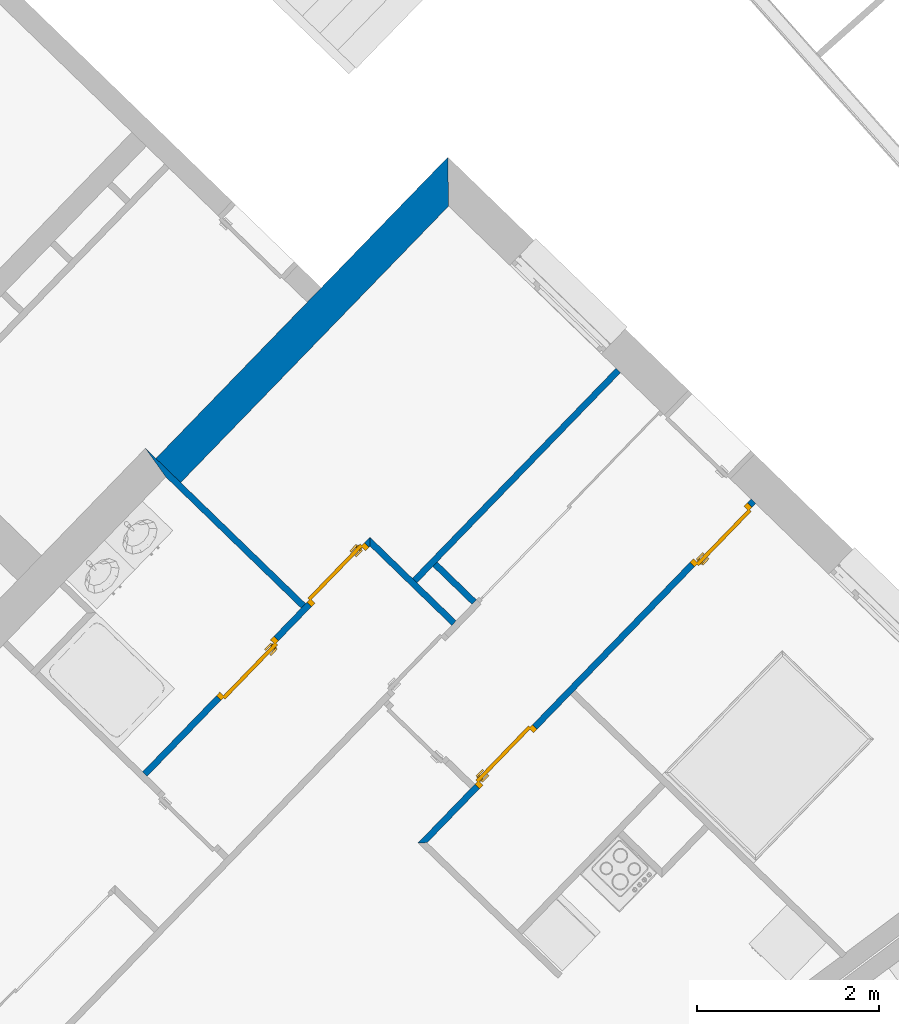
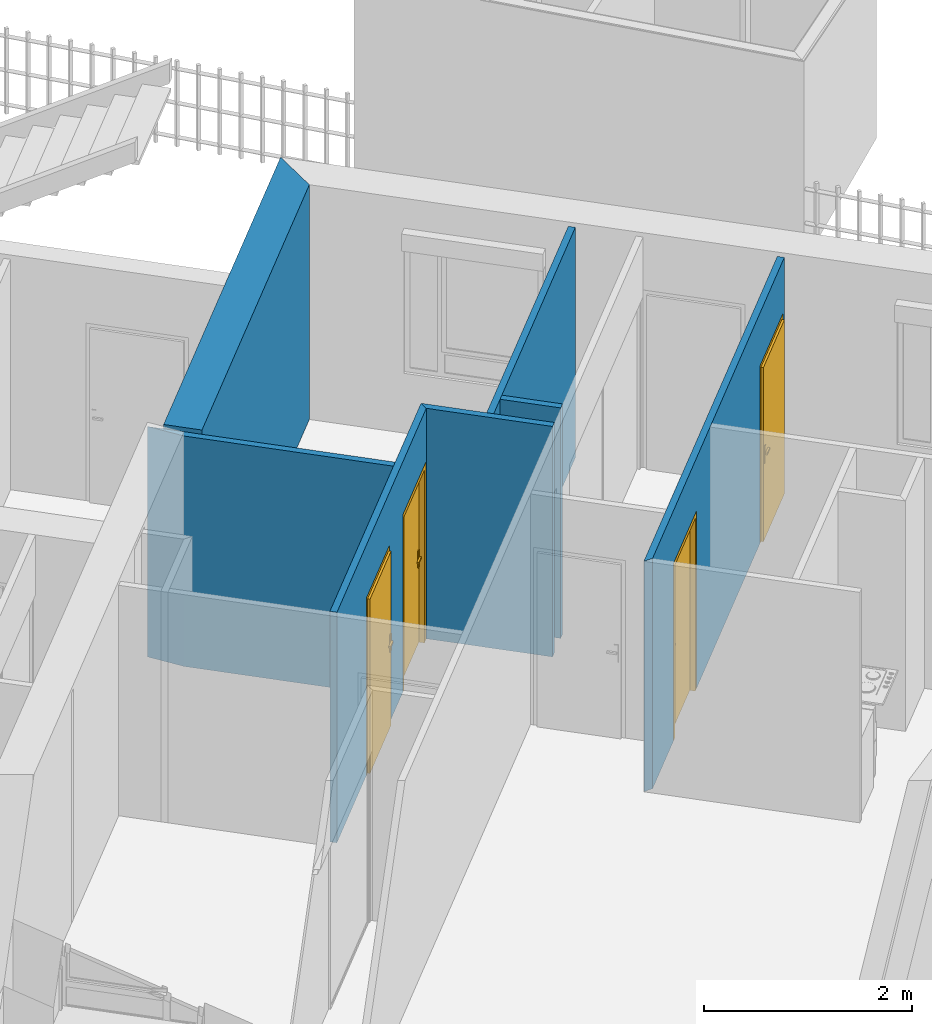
# One storey, part 22 of 195: 7 walls, 4 doors, 4 openings.
"""IFC2X3 building model written with IfcOpenShell, lengths in metres."""

from ifc_helpers import new_model, entity, si_unit, converted_unit, derived_unit, money_unit, direction, frame, origin_with_axes, origin_2d_with_axis, place, context, subcontext, project, spatial, polyline, rectangle, outline, extrude, faceted_brep, source, transform, mapped, material, layer, layer_set, layer_usage, type_object, element, fill, save


model = new_model("IFC2X3")

# Units and contexts
model_context = context("Model", 3, precision=1e-05, world=origin_with_axes(), true_north=direction((0.0, 1.0)))
body_context = subcontext(model_context, "Body", "Model", "MODEL_VIEW")
ifc_project = project(units=[si_unit("LENGTHUNIT", "METRE"), si_unit("AREAUNIT", "SQUARE_METRE"), si_unit("VOLUMEUNIT", "CUBIC_METRE"), converted_unit("PLANEANGLEUNIT", "DEGREE", entity("IfcPlaneAngleMeasure", 0.0174532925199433), si_unit("PLANEANGLEUNIT", "RADIAN"), dimensions=[0, 0, 0, 0, 0, 0, 0]), money_unit("CHF"), converted_unit("TIMEUNIT", "Year", entity("IfcTimeMeasure", 31557600.0), si_unit("TIMEUNIT", "SECOND"), dimensions=[0, 0, 1, 0, 0, 0, 0]), si_unit("MASSUNIT", "GRAM", prefix="KILO"), si_unit("THERMODYNAMICTEMPERATUREUNIT", "DEGREE_CELSIUS"), si_unit("LUMINOUSINTENSITYUNIT", "LUMEN"), si_unit("ENERGYUNIT", "JOULE", prefix="MEGA"), derived_unit("THERMALCONDUCTANCEUNIT", [(si_unit("POWERUNIT", "WATT"), 1), (si_unit("LENGTHUNIT", "METRE"), -1), (si_unit("THERMODYNAMICTEMPERATUREUNIT", "KELVIN"), -1)]), derived_unit("SPECIFICHEATCAPACITYUNIT", [(si_unit("ENERGYUNIT", "JOULE"), 1), (si_unit("MASSUNIT", "GRAM", prefix="KILO"), -1), (si_unit("THERMODYNAMICTEMPERATUREUNIT", "KELVIN"), -1)]), derived_unit("MASSDENSITYUNIT", [(si_unit("MASSUNIT", "GRAM", prefix="KILO"), 1), (si_unit("VOLUMEUNIT", "CUBIC_METRE"), -1)])], contexts=[model_context])

# Site, building, storey
site_placement = place(None, origin_with_axes())
site = spatial("IfcSite", under=ifc_project, at=site_placement, Name="Site", CompositionType="ELEMENT")
building_placement = place(site_placement, origin_with_axes())
building = spatial("IfcBuilding", under=site, at=building_placement, Name="Bâtiment", CompositionType="ELEMENT")
storey_placement = place(building_placement, origin_with_axes())
storey = spatial("IfcBuildingStorey", under=building, at=storey_placement, Name="rdc", CompositionType="ELEMENT", Elevation=0.0)

# Wall
ifc_material_1 = material(Name="Hachure solide 268963992")
ifc_layer_1 = layer(ifc_material_1, 0.07, ventilated="UNKNOWN")
ifc_layer_set_1 = layer_set([ifc_layer_1], Name="Cloison 70 0826278243")
ifc_layer_usage_1 = layer_usage(ifc_layer_set_1, "AXIS2", "POSITIVE", 0.0)
wall_type_1 = type_object("IfcWallType", Name="Cloison 70 0826278243 70", PredefinedType="NOTDEFINED")
wall_1_placement = place(storey_placement, frame((9534.102849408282, -1063.607706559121, 57.7), z_axis=(0.0, 0.0, 1.0), x_axis=(-0.6958610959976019, -0.7181763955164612, 0.0)))
element("IfcWallStandardCase", 1, at=wall_1_placement, inside=storey, type_object=wall_type_1, material=ifc_layer_usage_1, Name="Mur-149", context=body_context, shape_type="SweptSolid", body=[
    extrude(outline(polyline([(0.3799999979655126, 0.0), (3.666535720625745, 0.0), (3.666535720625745, 0.06999999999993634), (0.3799999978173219, 0.06999999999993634), (0.3799999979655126, 0.0)])), origin_with_axes(), (0.0, 0.0, 1.0), 2.7),
])

# Wall, openings, doors
ifc_layer_usage_2 = layer_usage(ifc_layer_set_1, "AXIS2", "POSITIVE", 0.0)
wall_2_placement = place(storey_placement, frame((9535.5881225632, -1065.046829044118, 57.7), z_axis=(0.0, 0.0, 1.0), x_axis=(-0.6958610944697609, -0.7181763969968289, 0.0)))
wall_2 = element("IfcWallStandardCase", 2, at=wall_2_placement, inside=storey, type_object=wall_type_1, material=ifc_layer_usage_2, Name="Mur-149", context=body_context, shape_type="SweptSolid", body=[
    extrude(outline(polyline([(0.3800000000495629, 0.0), (5.641309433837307, 0.0), (5.571309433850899, 0.06999999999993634), (0.3800000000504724, 0.06999999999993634), (0.3800000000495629, 0.0)])), origin_with_axes(), (0.0, 0.0, 1.0), 2.7),
])
opening_1_placement = place(wall_2_placement, frame((0.891687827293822, 0.0, 0.0), z_axis=(0.0, 0.0, 1.0), x_axis=(1.0, 0.0, 0.0)))
opening_1 = element("IfcOpeningElement", 3, at=opening_1_placement, cuts=wall_2, Name="Por-314", context=body_context, shape_type="SweptSolid", body=[
    extrude(rectangle(XDim=0.9099999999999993, YDim=2.079999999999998, at=origin_2d_with_axis()), frame((0.0, -0.07000000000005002, 1.039999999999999), z_axis=(0.0, -1.0, 0.0), x_axis=(-1.0, 0.0, 0.0)), (0.0, 0.0, -1.0), 0.14),
])
opening_2_placement = place(wall_2_placement, frame((4.288332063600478, 0.0, 0.0), z_axis=(0.0, 0.0, 1.0), x_axis=(1.0, 0.0, 0.0)))
opening_2 = element("IfcOpeningElement", 4, at=opening_2_placement, cuts=wall_2, Name="Por-316", context=body_context, shape_type="SweptSolid", body=[
    extrude(rectangle(XDim=0.9099999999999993, YDim=2.079999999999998, at=origin_2d_with_axis()), frame((0.0, 0.06999999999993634, 1.039999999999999), z_axis=(0.0, -1.0, 0.0), x_axis=(-1.0, 0.0, 0.0)), (0.0, 0.0, 1.0), 0.14),
])
door_style = type_object("IfcDoorStyle", Name="Porte_1v", ConstructionType="NOTDEFINED", OperationType="NOTDEFINED", ParameterTakesPrecedence=False, Sizeable=False)
shared_shape_1 = source(origin_with_axes(), body_context, "Body", "Brep", [
    faceted_brep([(0.455, 0.0, 0.0), (0.415, 0.0, 0.0), (0.415, 0.0, 2.04), (-0.415, 0.0, 2.04), (-0.415, 0.0, 0.0), (-0.455, 0.0, 0.0), (-0.455, 0.0, 2.08), (0.455, 0.0, 2.08), (0.455, -0.07, 0.0), (0.4, -0.07, 0.0), (0.4, -0.015, 0.0), (0.415, -0.015, 0.0), (0.415, -0.015, 2.04), (-0.415, -0.015, 2.04), (-0.415, -0.015, 0.0), (-0.4, -0.015, 0.0), (-0.4, -0.07, 0.0), (-0.455, -0.07, 0.0), (-0.455, -0.07, 2.08), (0.455, -0.07, 2.08), (-0.4, -0.07, 2.025), (0.4, -0.07, 2.025), (0.4, -0.015, 2.025), (-0.4, -0.015, 2.025)], [[[0, 1, 2, 3, 4, 5, 6, 7]], [[0, 8, 9, 10, 11, 1]], [[1, 11, 12, 2]], [[2, 12, 13, 3]], [[3, 13, 14, 4]], [[5, 4, 14, 15, 16, 17]], [[18, 6, 5, 17]], [[19, 7, 6, 18]], [[8, 0, 7, 19]], [[9, 8, 19, 18, 17, 16, 20, 21]], [[10, 9, 21, 22]], [[11, 10, 22, 23, 15, 14, 13, 12]], [[23, 20, 16, 15]], [[22, 21, 20, 23]]]),
    faceted_brep([(-0.35, -0.015, 0.9), (-0.39, -0.015, 0.9), (-0.39, -0.015, 1.1), (-0.35, -0.015, 1.1), (-0.35, -0.025, 0.9), (-0.39, -0.025, 0.9), (-0.39, -0.025, 1.1), (-0.35, -0.025, 1.1)], [[[0, 1, 2, 3]], [[1, 0, 4, 5]], [[2, 1, 5, 6]], [[3, 2, 6, 7]], [[0, 3, 7, 4]], [[5, 4, 7, 6]]]),
    faceted_brep([(-0.28, -0.025, 1.0), (-0.38, -0.025, 1.0), (-0.38, -0.025, 1.02), (-0.28, -0.025, 1.02), (-0.28, -0.045, 1.0), (-0.38, -0.045, 1.0), (-0.38, -0.045, 1.02), (-0.28, -0.045, 1.02)], [[[0, 1, 2, 3]], [[1, 0, 4, 5]], [[2, 1, 5, 6]], [[3, 2, 6, 7]], [[0, 3, 7, 4]], [[5, 4, 7, 6]]]),
    faceted_brep([(-0.35, 0.035, 0.9), (-0.39, 0.035, 0.9), (-0.39, 0.035, 1.1), (-0.35, 0.035, 1.1), (-0.35, 0.025, 0.9), (-0.39, 0.025, 0.9), (-0.39, 0.025, 1.1), (-0.35, 0.025, 1.1)], [[[0, 1, 2, 3]], [[1, 0, 4, 5]], [[2, 1, 5, 6]], [[3, 2, 6, 7]], [[0, 3, 7, 4]], [[5, 4, 7, 6]]]),
    faceted_brep([(-0.28, 0.05500000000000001, 1.0), (-0.38, 0.05500000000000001, 1.0), (-0.38, 0.05500000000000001, 1.02), (-0.28, 0.05500000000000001, 1.02), (-0.28, 0.035, 1.0), (-0.38, 0.035, 1.0), (-0.38, 0.035, 1.02), (-0.28, 0.035, 1.02)], [[[0, 1, 2, 3]], [[1, 0, 4, 5]], [[2, 1, 5, 6]], [[3, 2, 6, 7]], [[0, 3, 7, 4]], [[5, 4, 7, 6]]]),
    faceted_brep([(-0.415, 0.025, 0.0), (0.415, 0.025, 0.0), (0.415, -0.015, 0.0), (-0.415, -0.015, 0.0), (-0.415, 0.025, 2.04), (0.415, 0.025, 2.04), (0.415, -0.015, 2.04), (-0.415, -0.015, 2.04)], [[[0, 1, 2, 3]], [[0, 4, 5, 1]], [[1, 5, 6, 2]], [[3, 2, 6, 7]], [[4, 0, 3, 7]], [[5, 4, 7, 6]]]),
])
door_1_placement = place(opening_2_placement, frame((0.4149999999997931, 0.0, 0.0), z_axis=(0.0, 0.0, 1.0), x_axis=(-1.0, 0.0, 0.0)))
door_1 = element("IfcDoor", 5, at=door_1_placement, inside=storey, type_object=door_style, Name="Por-316", OverallHeight=2.04, OverallWidth=0.83, context=body_context, shape_type="MappedRepresentation", body=[
    mapped(shared_shape_1, transform((0.4150000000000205, 0.0, 0.0))),
])
fill(opening_2, door_1)
shared_shape_2 = source(origin_with_axes(), body_context, "Body", "Brep", [
    faceted_brep([(-0.455, 0.0, 0.0), (-0.455, 0.0, 2.08), (0.455, 0.0, 2.08), (0.455, 0.0, 0.0), (0.415, 0.0, 0.0), (0.415, 0.0, 2.04), (-0.415, 0.0, 2.04), (-0.415, 0.0, 0.0), (-0.455, -0.07, 0.0), (-0.455, -0.07, 2.08), (0.455, -0.07, 2.08), (0.455, -0.07, 0.0), (0.4, -0.07, 0.0), (0.4, -0.015, 0.0), (0.415, -0.015, 0.0), (0.415, -0.015, 2.04), (-0.415, -0.015, 2.04), (-0.415, -0.015, 0.0), (-0.4, -0.015, 0.0), (-0.4, -0.07, 0.0), (-0.4, -0.07, 2.025), (0.4, -0.07, 2.025), (0.4, -0.015, 2.025), (-0.4, -0.015, 2.025)], [[[0, 1, 2, 3, 4, 5, 6, 7]], [[8, 9, 1, 0]], [[9, 10, 2, 1]], [[10, 11, 3, 2]], [[3, 11, 12, 13, 14, 4]], [[5, 4, 14, 15]], [[6, 5, 15, 16]], [[7, 6, 16, 17]], [[0, 7, 17, 18, 19, 8]], [[19, 20, 21, 12, 11, 10, 9, 8]], [[22, 13, 12, 21]], [[17, 16, 15, 14, 13, 22, 23, 18]], [[18, 23, 20, 19]], [[23, 22, 21, 20]]]),
    faceted_brep([(0.35, -0.015, 0.9), (0.35, -0.015, 1.1), (0.39, -0.015, 1.1), (0.39, -0.015, 0.9), (0.35, -0.025, 0.9), (0.35, -0.025, 1.1), (0.39, -0.025, 1.1), (0.39, -0.025, 0.9)], [[[0, 1, 2, 3]], [[0, 4, 5, 1]], [[1, 5, 6, 2]], [[2, 6, 7, 3]], [[3, 7, 4, 0]], [[7, 6, 5, 4]]]),
    faceted_brep([(0.28, -0.025, 1.0), (0.28, -0.025, 1.02), (0.38, -0.025, 1.02), (0.38, -0.025, 1.0), (0.28, -0.045, 1.0), (0.28, -0.045, 1.02), (0.38, -0.045, 1.02), (0.38, -0.045, 1.0)], [[[0, 1, 2, 3]], [[0, 4, 5, 1]], [[1, 5, 6, 2]], [[2, 6, 7, 3]], [[3, 7, 4, 0]], [[7, 6, 5, 4]]]),
    faceted_brep([(0.35, 0.035, 0.9), (0.35, 0.035, 1.1), (0.39, 0.035, 1.1), (0.39, 0.035, 0.9), (0.35, 0.025, 0.9), (0.35, 0.025, 1.1), (0.39, 0.025, 1.1), (0.39, 0.025, 0.9)], [[[0, 1, 2, 3]], [[0, 4, 5, 1]], [[1, 5, 6, 2]], [[2, 6, 7, 3]], [[3, 7, 4, 0]], [[7, 6, 5, 4]]]),
    faceted_brep([(0.28, 0.05500000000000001, 1.0), (0.28, 0.05500000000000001, 1.02), (0.38, 0.05500000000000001, 1.02), (0.38, 0.05500000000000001, 1.0), (0.28, 0.035, 1.0), (0.28, 0.035, 1.02), (0.38, 0.035, 1.02), (0.38, 0.035, 1.0)], [[[0, 1, 2, 3]], [[0, 4, 5, 1]], [[1, 5, 6, 2]], [[2, 6, 7, 3]], [[3, 7, 4, 0]], [[7, 6, 5, 4]]]),
    faceted_brep([(0.415, 0.025, 0.0), (0.415, -0.015, 0.0), (-0.415, -0.015, 0.0), (-0.415, 0.025, 0.0), (0.415, 0.025, 2.04), (0.415, -0.015, 2.04), (-0.415, -0.015, 2.04), (-0.415, 0.025, 2.04)], [[[0, 1, 2, 3]], [[4, 5, 1, 0]], [[1, 5, 6, 2]], [[3, 2, 6, 7]], [[0, 3, 7, 4]], [[7, 6, 5, 4]]]),
])
door_2_placement = place(opening_1_placement, frame((-0.4150000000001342, 0.0, 0.0), z_axis=(0.0, 0.0, 1.0), x_axis=(1.0, 0.0, 0.0)))
door_2 = element("IfcDoor", 6, at=door_2_placement, inside=storey, type_object=door_style, Name="Por-314", OverallHeight=2.04, OverallWidth=0.83, context=body_context, shape_type="MappedRepresentation", body=[
    mapped(shared_shape_2, transform((0.4149999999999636, 0.07000000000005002, 0.0))),
])
fill(opening_1, door_2)

# Wall
ifc_layer_usage_3 = layer_usage(ifc_layer_set_1, "AXIS2", "POSITIVE", 0.0)
wall_3_placement = place(storey_placement, frame((9532.081338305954, -1066.656880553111, 57.7), z_axis=(0.0, 0.0, 1.0), x_axis=(-0.7181763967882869, 0.6958610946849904, 0.0)))
element("IfcWallStandardCase", 7, at=wall_3_placement, inside=storey, type_object=wall_type_1, material=ifc_layer_usage_3, Name="Mur-149", context=body_context, shape_type="SweptSolid", body=[
    extrude(outline(polyline([(3.1798208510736e-10, 0.0), (1.320000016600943, 0.0), (1.250000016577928, 0.06999999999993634), (4.371258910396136e-10, 0.07000000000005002), (3.1798208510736e-10, 0.0)])), origin_with_axes(), (0.0, 0.0, 1.0), 2.7),
])

# Wall, openings, doors
ifc_layer_usage_4 = layer_usage(ifc_layer_set_1, "AXIS2", "POSITIVE", 0.0)
wall_4_placement = place(storey_placement, frame((9531.133345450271, -1065.738343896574, 57.7), z_axis=(0.0, 0.0, 1.0), x_axis=(-0.6958610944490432, -0.7181763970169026, 0.0)))
wall_4 = element("IfcWallStandardCase", 8, at=wall_4_placement, inside=storey, type_object=wall_type_1, material=ifc_layer_usage_4, Name="Mur-149", context=body_context, shape_type="SweptSolid", body=[
    extrude(outline(polyline([(0.0, 0.0), (3.591154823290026, 0.0), (3.591154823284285, 0.06999999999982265), (0.07000000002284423, 0.06999999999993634), (0.0, 0.0)])), origin_with_axes(), (0.0, 0.0, 1.0), 2.7),
])
opening_3_placement = place(wall_4_placement, frame((1.97243605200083, 0.0, 0.0), z_axis=(0.0, 0.0, 1.0), x_axis=(1.0, 0.0, 0.0)))
opening_3 = element("IfcOpeningElement", 9, at=opening_3_placement, cuts=wall_4, Name="Por-310", context=body_context, shape_type="SweptSolid", body=[
    extrude(rectangle(XDim=0.9099999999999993, YDim=2.079999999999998, at=origin_2d_with_axis()), frame((0.0, -0.07000000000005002, 1.039999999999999), z_axis=(0.0, 1.0, 0.0), x_axis=(1.0, 0.0, 0.0)), (0.0, 0.0, 1.0), 0.14),
])
opening_4_placement = place(wall_4_placement, frame((0.5419280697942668, 0.0, 0.0), z_axis=(0.0, 0.0, 1.0), x_axis=(1.0, 0.0, 0.0)))
opening_4 = element("IfcOpeningElement", 10, at=opening_4_placement, cuts=wall_4, Name="Por-310", context=body_context, shape_type="SweptSolid", body=[
    extrude(rectangle(XDim=0.9099999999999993, YDim=2.079999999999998, at=origin_2d_with_axis()), frame((0.0, 0.07000000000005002, 1.039999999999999), z_axis=(0.0, 1.0, 0.0), x_axis=(1.0, 0.0, 0.0)), (0.0, 0.0, -1.0), 0.14),
])
door_3_placement = place(opening_3_placement, frame((-0.4149999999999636, 0.0, 0.0), z_axis=(0.0, 0.0, 1.0), x_axis=(1.0, 0.0, 0.0)))
door_3 = element("IfcDoor", 11, at=door_3_placement, inside=storey, type_object=door_style, Name="Por-310", OverallHeight=2.04, OverallWidth=0.83, context=body_context, shape_type="MappedRepresentation", body=[
    mapped(shared_shape_1, transform((0.4149999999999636, 0.07000000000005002, 0.0))),
])
fill(opening_3, door_3)
door_4_placement = place(opening_4_placement, frame((0.4149999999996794, 0.0, 0.0), z_axis=(0.0, 0.0, 1.0), x_axis=(-1.0, 0.0, 0.0)))
door_4 = element("IfcDoor", 12, at=door_4_placement, inside=storey, type_object=door_style, Name="Por-310", OverallHeight=2.04, OverallWidth=0.83, context=body_context, shape_type="MappedRepresentation", body=[
    mapped(shared_shape_2, transform((0.4149999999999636, 0.0, 0.0))),
])
fill(opening_4, door_4)

# Walls
ifc_layer_usage_5 = layer_usage(ifc_layer_set_1, "AXIS2", "POSITIVE", 0.0)
wall_5_placement = place(storey_placement, frame((9530.426428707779, -1066.467930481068, 57.7), z_axis=(0.0, 0.0, 1.0), x_axis=(-0.7181763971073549, 0.6958610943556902, 0.0)))
element("IfcWallStandardCase", 13, at=wall_5_placement, inside=storey, type_object=wall_type_1, material=ifc_layer_usage_5, Name="Mur-149", context=body_context, shape_type="SweptSolid", body=[
    extrude(outline(polyline([(0.0, 0.0), (2.452148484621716, 0.0), (2.072148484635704, 0.06999999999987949), (0.0, 0.06999999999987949), (0.0, 0.0)])), origin_with_axes(), (0.0, 0.0, 1.0), 2.7),
])
ifc_layer_usage_6 = layer_usage(ifc_layer_set_1, "AXIS2", "POSITIVE", 0.0)
wall_6_placement = place(storey_placement, frame((9532.304013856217, -1066.427064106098, 57.7), z_axis=(0.0, 0.0, 1.0), x_axis=(-0.7181763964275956, 0.6958610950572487, 0.0)))
element("IfcWallStandardCase", 14, at=wall_6_placement, inside=storey, type_object=wall_type_1, material=ifc_layer_usage_6, Name="Mur-149", context=body_context, shape_type="SweptSolid", body=[
    extrude(outline(polyline([(-2.810338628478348e-10, 0.0), (0.5999999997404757, 0.0), (0.5999999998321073, 0.07000000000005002), (-1.979287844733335e-10, 0.06999999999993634), (-2.810338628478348e-10, 0.0)])), origin_with_axes(), (0.0, 0.0, 1.0), 2.7),
])
ifc_material_2 = material(Name="Parpaing 312445824")
ifc_layer_2 = layer(ifc_material_2, 0.22, ventilated="UNKNOWN")
ifc_material_3 = material(Name="Isolant styromousse 301821074")
ifc_layer_3 = layer(ifc_material_3, 0.16, ventilated="UNKNOWN")
ifc_layer_set_2 = layer_set([ifc_layer_2, ifc_layer_3], Name="isol int 22+16 0836643197")
ifc_layer_usage_7 = layer_usage(ifc_layer_set_2, "AXIS2", "NEGATIVE", 0.0)
wall_type_2 = type_object("IfcWallType", Name="isol int 22+16 0836643197 380", PredefinedType="NOTDEFINED")
wall_7_placement = place(storey_placement, frame((9528.780261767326, -1064.872913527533, 57.7), z_axis=(0.0, 0.0, 1.0), x_axis=(0.6958610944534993, 0.7181763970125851, 0.0)))
element("IfcWallStandardCase", 15, at=wall_7_placement, inside=storey, type_object=wall_type_2, material=ifc_layer_usage_7, Name="Mur-116", context=body_context, shape_type="SweptSolid", body=[
    extrude(outline(polyline([(0.0, -0.3799999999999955), (4.23242344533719, -0.3799999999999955), (4.612423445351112, 0.0), (0.0, 0.0), (0.0, -0.3799999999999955)])), origin_with_axes(), (0.0, 0.0, 1.0), 2.75),
])

save(model, "model.ifc")
